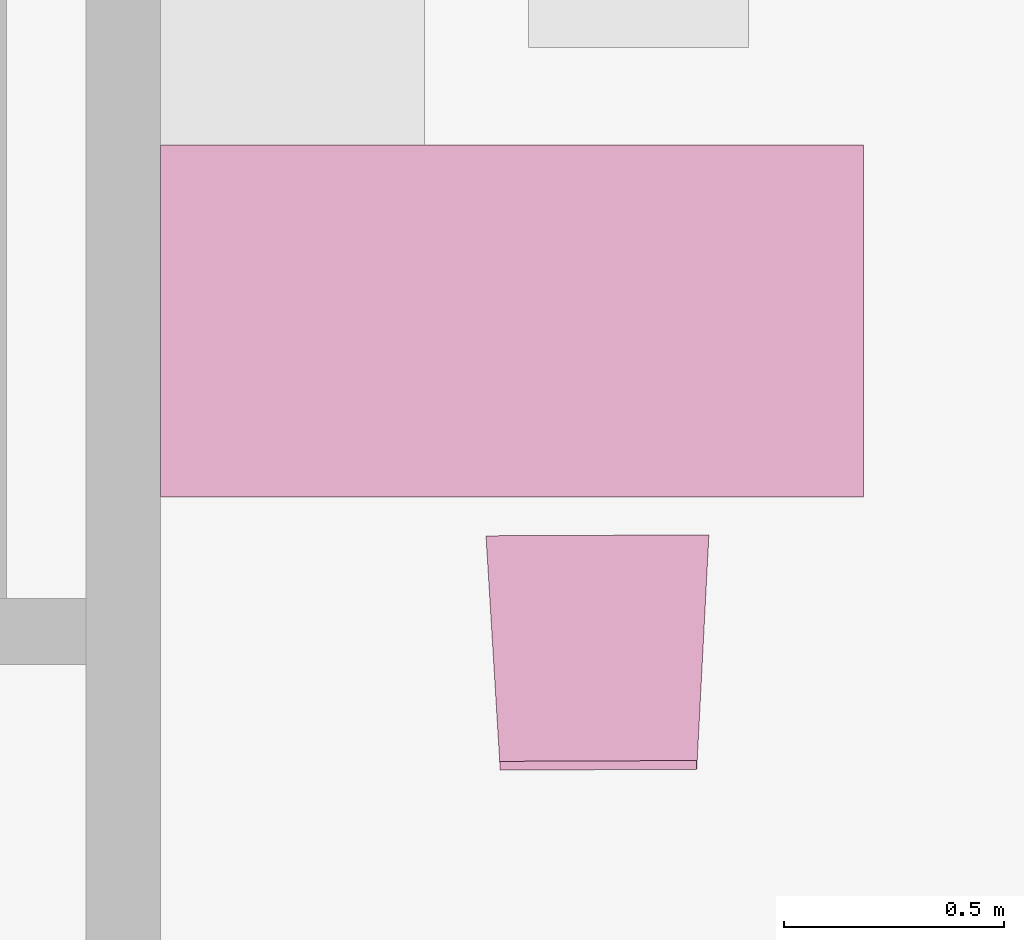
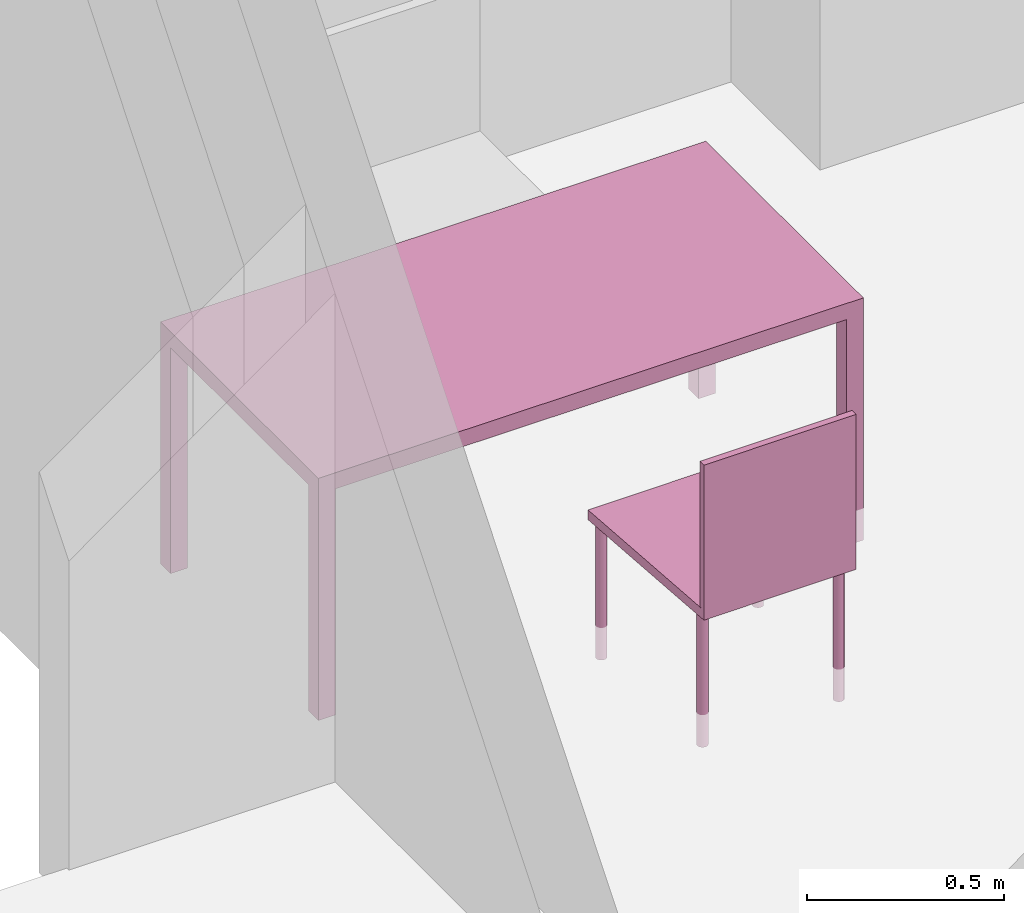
"""IFC4 building model written with IfcOpenShell, lengths in metres."""

from ifc_helpers import new_model, entity, si_unit, converted_unit, derived_unit, frame, origin, place, context, subcontext, project, spatial, faceted_brep, element, save


model = new_model("IFC4")

# Units and contexts
model_context = context("Model", 3, precision=1e-05, world=origin())
body_context = subcontext(model_context, "Body", "Model", "MODEL_VIEW")
ifc_project = project(units=[si_unit("LENGTHUNIT", "METRE"), si_unit("AREAUNIT", "SQUARE_METRE"), si_unit("VOLUMEUNIT", "CUBIC_METRE"), si_unit("MASSUNIT", "GRAM", prefix="KILO"), converted_unit("PLANEANGLEUNIT", "DEGREE", entity("IfcPlaneAngleMeasure", 0.0174532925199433), si_unit("PLANEANGLEUNIT", "RADIAN"), dimensions=[0, 0, 0, 0, 0, 0, 0]), derived_unit("THERMALTRANSMITTANCEUNIT", [(si_unit("POWERUNIT", "WATT"), 1), (si_unit("THERMODYNAMICTEMPERATUREUNIT", "KELVIN"), -1), (si_unit("LENGTHUNIT", "METRE"), -2)]), derived_unit("VOLUMETRICFLOWRATEUNIT", [(si_unit("LENGTHUNIT", "METRE"), 3), (converted_unit("TIMEUNIT", "hour", entity("IfcTimeMeasure", 3600.0), si_unit("TIMEUNIT", "SECOND"), dimensions=[0, 0, 1, 0, 0, 0, 0]), -1), (si_unit("LENGTHUNIT", "METRE"), -1)])], contexts=[model_context])

# Building, storeys
building_placement = place(None, origin())
building = spatial("IfcBuilding", under=ifc_project, at=building_placement, Name="HABITATGE PLURIFAMILIAR", CompositionType="ELEMENT")
storey_1_placement = place(building_placement, frame((0.0, 0.0, 9.26)))
storey_1 = spatial("IfcBuildingStorey", under=building, at=storey_1_placement, Name="PLANTA SEGONA", CompositionType="ELEMENT", Elevation=9.26)
storey_2_placement = place(storey_1_placement, frame((0.0, 0.0, 6.25)))
storey_2 = spatial("IfcBuildingStorey", under=storey_1, at=storey_2_placement, Name="NOU", CompositionType="PARTIAL")

# Furniture
furniture_1_placement = place(storey_2_placement, frame((421.506984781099, 26.2691508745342, -6.3499999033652)))
element("IfcFurniture", 1, at=furniture_1_placement, inside=storey_2, Name="Taula 160X80_P2", context=body_context, shape_type="Brep", body=[
    faceted_brep([(1.546945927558, 0.05, 0.0), (1.546945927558, 0.0, 0.0), (1.596945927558, 0.0, 0.0), (1.596945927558, 0.05, 0.0), (1.546945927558, 0.0, 0.7), (1.546945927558, 0.05, 0.7), (1.596945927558, 0.05, 0.7), (1.596945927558, 0.0, 0.7)], [[[0, 1, 2, 3]], [[4, 5, 6, 7]], [[1, 0, 5, 4]], [[2, 1, 4, 7]], [[3, 2, 7, 6]], [[0, 3, 6, 5]]], orient=[[False], [False], [False], [False], [False], [False]]),
    faceted_brep([(1.546945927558, 0.800069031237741, 0.0), (1.546945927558, 0.750069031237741, 0.0), (1.596945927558, 0.750069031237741, 0.0), (1.596945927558, 0.800069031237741, 0.0), (1.546945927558, 0.750069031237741, 0.7), (1.546945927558, 0.800069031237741, 0.7), (1.596945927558, 0.800069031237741, 0.7), (1.596945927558, 0.750069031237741, 0.7)], [[[0, 1, 2, 3]], [[4, 5, 6, 7]], [[1, 0, 5, 4]], [[2, 1, 4, 7]], [[3, 2, 7, 6]], [[0, 3, 6, 5]]], orient=[[False], [False], [False], [False], [False], [False]]),
    faceted_brep([(0.0, 0.800069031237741, 0.7), (0.0, 0.0, 0.7), (1.596945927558, 0.0, 0.7), (1.596945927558, 0.800069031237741, 0.7), (0.0, 0.0, 0.75), (0.0, 0.800069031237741, 0.75), (1.596945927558, 0.800069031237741, 0.75), (1.596945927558, 0.0, 0.75)], [[[0, 1, 2, 3]], [[4, 5, 6, 7]], [[1, 0, 5, 4]], [[2, 1, 4, 7]], [[3, 2, 7, 6]], [[0, 3, 6, 5]]], orient=[[False], [False], [False], [False], [False], [False]]),
    faceted_brep([(0.0, 0.05, 0.0), (0.0, 0.0, 0.0), (0.05, 0.0, 0.0), (0.05, 0.05, 0.0), (0.0, 0.0, 0.7), (0.0, 0.05, 0.7), (0.05, 0.05, 0.7), (0.05, 0.0, 0.7)], [[[0, 1, 2, 3]], [[4, 5, 6, 7]], [[1, 0, 5, 4]], [[2, 1, 4, 7]], [[3, 2, 7, 6]], [[0, 3, 6, 5]]], orient=[[False], [False], [False], [False], [False], [False]]),
    faceted_brep([(0.0, 0.800069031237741, 0.0), (0.0, 0.750069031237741, 0.0), (0.05, 0.750069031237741, 0.0), (0.05, 0.800069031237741, 0.0), (0.0, 0.750069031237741, 0.7), (0.0, 0.800069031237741, 0.7), (0.05, 0.800069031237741, 0.7), (0.05, 0.750069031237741, 0.7)], [[[0, 1, 2, 3]], [[4, 5, 6, 7]], [[1, 0, 5, 4]], [[2, 1, 4, 7]], [[3, 2, 7, 6]], [[0, 3, 6, 5]]], orient=[[False], [False], [False], [False], [False], [False]]),
])
furniture_2_placement = place(storey_2_placement, frame((422.246369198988, 25.6488703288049, -6.3514820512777)))
element("IfcFurniture", 2, at=furniture_2_placement, inside=storey_2, Name="Cadira confident_P2", context=body_context, shape_type="Brep", body=[
    faceted_brep([(0.0392724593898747, 0.507545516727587, 0.0), (0.0390342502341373, 0.510138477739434, 0.0), (0.0383493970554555, 0.512650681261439, 0.0), (0.0372387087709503, 0.515005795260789, 0.0), (0.0357359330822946, 0.517132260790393, 0.0), (0.0338867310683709, 0.518965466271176, 0.0), (0.0317472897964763, 0.520449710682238, 0.0), (0.0293826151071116, 0.521539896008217, 0.0), (0.0268645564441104, 0.522202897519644, 0.0), (0.0242696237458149, 0.52241857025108, 0.0), (0.0216766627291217, 0.522180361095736, 0.0), (0.0191644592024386, 0.52149550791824, 0.0), (0.0168093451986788, 0.520384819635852, 0.0), (0.0146828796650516, 0.518882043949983, 0.0), (0.0128496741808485, 0.517032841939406, 0.0), (0.0113654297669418, 0.514893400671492, 0.0), (0.0102752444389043, 0.512528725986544, 0.0), (0.00961224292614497, 0.510010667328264, 0.0), (0.00939657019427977, 0.507415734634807, 0.0), (0.0096347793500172, 0.504822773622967, 0.0), (0.010319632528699, 0.50231057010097, 0.0), (0.0114303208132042, 0.499955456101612, 0.0), (0.0129330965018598, 0.497828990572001, 0.0), (0.0147822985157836, 0.495995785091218, 0.0), (0.0169217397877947, 0.494511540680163, 0.0), (0.0192864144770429, 0.493421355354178, 0.0), (0.0218044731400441, 0.492758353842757, 0.0), (0.0243994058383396, 0.492542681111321, 0.0), (0.0269923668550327, 0.492780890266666, 0.0), (0.0295045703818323, 0.493465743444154, 0.0), (0.0318596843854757, 0.494576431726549, 0.0), (0.0339861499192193, 0.496079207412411, 0.0), (0.0358193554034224, 0.497928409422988, 0.0), (0.0373035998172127, 0.50006785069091, 0.0), (0.0383937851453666, 0.502432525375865, 0.0), (0.0390567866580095, 0.504950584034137, 0.0), (0.0392724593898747, 0.507545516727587, 0.448281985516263), (0.0390567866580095, 0.504950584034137, 0.448281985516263), (0.0383937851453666, 0.502432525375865, 0.448281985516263), (0.0373035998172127, 0.50006785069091, 0.448281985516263), (0.0358193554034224, 0.497928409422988, 0.448281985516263), (0.0339861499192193, 0.496079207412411, 0.448281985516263), (0.0318596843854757, 0.494576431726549, 0.448281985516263), (0.0295045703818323, 0.493465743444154, 0.448281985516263), (0.0269923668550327, 0.492780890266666, 0.448281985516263), (0.0243994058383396, 0.492542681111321, 0.448281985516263), (0.0218044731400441, 0.492758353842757, 0.448281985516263), (0.0192864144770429, 0.493421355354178, 0.448281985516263), (0.0169217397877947, 0.494511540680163, 0.448281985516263), (0.0147822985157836, 0.495995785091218, 0.448281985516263), (0.0129330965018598, 0.497828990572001, 0.448281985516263), (0.0114303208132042, 0.499955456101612, 0.448281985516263), (0.010319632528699, 0.50231057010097, 0.448281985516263), (0.0096347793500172, 0.504822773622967, 0.448281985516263), (0.00939657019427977, 0.507415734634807, 0.448281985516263), (0.00961224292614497, 0.510010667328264, 0.448281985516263), (0.0102752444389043, 0.512528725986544, 0.448281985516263), (0.0113654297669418, 0.514893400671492, 0.448281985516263), (0.0128496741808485, 0.517032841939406, 0.448281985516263), (0.0146828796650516, 0.518882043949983, 0.448281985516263), (0.0168093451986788, 0.520384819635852, 0.448281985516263), (0.0191644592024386, 0.52149550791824, 0.448281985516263), (0.0216766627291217, 0.522180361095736, 0.448281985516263), (0.0242696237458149, 0.52241857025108, 0.448281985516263), (0.0268645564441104, 0.522202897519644, 0.448281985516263), (0.0293826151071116, 0.521539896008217, 0.448281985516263), (0.0317472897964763, 0.520449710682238, 0.448281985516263), (0.0338867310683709, 0.518965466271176, 0.448281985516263), (0.0357359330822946, 0.517132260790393, 0.448281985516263), (0.0372387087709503, 0.515005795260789, 0.448281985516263), (0.0383493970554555, 0.512650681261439, 0.448281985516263), (0.0390342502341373, 0.510138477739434, 0.448281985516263)], [[[0, 1, 2, 3, 4, 5, 6, 7, 8, 9, 10, 11, 12, 13, 14, 15, 16, 17, 18, 19, 20, 21, 22, 23, 24, 25, 26, 27, 28, 29, 30, 31, 32, 33, 34, 35]], [[36, 37, 38, 39, 40, 41, 42, 43, 44, 45, 46, 47, 48, 49, 50, 51, 52, 53, 54, 55, 56, 57, 58, 59, 60, 61, 62, 63, 64, 65, 66, 67, 68, 69, 70, 71]], [[35, 37, 36, 0]], [[34, 38, 37, 35]], [[33, 39, 38, 34]], [[32, 40, 39, 33]], [[31, 41, 40, 32]], [[30, 42, 41, 31]], [[29, 43, 42, 30]], [[28, 44, 43, 29]], [[27, 45, 44, 28]], [[26, 46, 45, 27]], [[25, 47, 46, 26]], [[24, 48, 47, 25]], [[23, 49, 48, 24]], [[22, 50, 49, 23]], [[21, 51, 50, 22]], [[20, 52, 51, 21]], [[19, 53, 52, 20]], [[18, 54, 53, 19]], [[17, 55, 54, 18]], [[16, 56, 55, 17]], [[15, 57, 56, 16]], [[14, 58, 57, 15]], [[13, 59, 58, 14]], [[12, 60, 59, 13]], [[11, 61, 60, 12]], [[10, 62, 61, 11]], [[9, 63, 62, 10]], [[8, 64, 63, 9]], [[7, 65, 64, 8]], [[6, 66, 65, 7]], [[5, 67, 66, 6]], [[4, 68, 67, 5]], [[3, 69, 68, 4]], [[2, 70, 69, 3]], [[1, 71, 70, 2]], [[0, 36, 71, 1]]], orient=[[False], [False], [False], [False], [False], [False], [False], [False], [False], [False], [False], [False], [False], [False], [False], [False], [False], [False], [False], [False], [False], [False], [False], [False], [False], [False], [False], [False], [False], [False], [False], [False], [False], [False], [False], [False], [False], [False]]),
    faceted_brep([(0.0689188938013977, 0.0452628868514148, 0.0), (0.0686806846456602, 0.0478558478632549, 0.0), (0.0679958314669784, 0.0503680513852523, 0.0), (0.0668851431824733, 0.0527231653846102, 0.0), (0.0653823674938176, 0.0548496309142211, 0.0), (0.0635331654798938, 0.0566828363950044, 0.0), (0.0613937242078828, 0.058167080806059, 0.0), (0.0590290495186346, 0.0592572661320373, 0.0), (0.0565109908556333, 0.0599202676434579, 0.0), (0.0539160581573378, 0.0601359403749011, 0.0), (0.0513230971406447, 0.0598977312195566, 0.0), (0.0488108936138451, 0.059212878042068, 0.0), (0.0464557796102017, 0.0581021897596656, 0.0), (0.0443293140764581, 0.0565994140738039, 0.0), (0.0424961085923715, 0.0547502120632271, 0.0), (0.0410118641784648, 0.0526107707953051, 0.0), (0.0399216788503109, 0.050246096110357, 0.0), (0.0392586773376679, 0.0477280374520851, 0.0), (0.0390430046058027, 0.0451331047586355, 0.0), (0.0392812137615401, 0.0425401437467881, 0.0), (0.0399660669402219, 0.0400279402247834, 0.0), (0.0410767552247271, 0.0376728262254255, 0.0), (0.0425795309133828, 0.0355463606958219, 0.0), (0.0444287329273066, 0.0337131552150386, 0.0), (0.0465681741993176, 0.0322289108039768, 0.0), (0.0489328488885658, 0.0311387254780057, 0.0), (0.0514509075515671, 0.0304757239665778, 0.0), (0.0540458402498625, 0.0302600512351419, 0.0), (0.0566388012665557, 0.0304982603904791, 0.0), (0.0591510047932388, 0.0311831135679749, 0.0), (0.0615061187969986, 0.0322938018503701, 0.0), (0.0636325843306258, 0.0337965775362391, 0.0), (0.0654657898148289, 0.0356457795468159, 0.0), (0.0669500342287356, 0.0377852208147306, 0.0), (0.0680402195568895, 0.0401498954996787, 0.0), (0.0687032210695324, 0.0426679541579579, 0.0), (0.0689188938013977, 0.0452628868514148, 0.448281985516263), (0.0687032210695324, 0.0426679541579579, 0.448281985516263), (0.0680402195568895, 0.0401498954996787, 0.448281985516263), (0.0669500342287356, 0.0377852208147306, 0.448281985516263), (0.0654657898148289, 0.0356457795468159, 0.448281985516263), (0.0636325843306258, 0.0337965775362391, 0.448281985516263), (0.0615061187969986, 0.0322938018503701, 0.448281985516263), (0.0591510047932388, 0.0311831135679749, 0.448281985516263), (0.0566388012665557, 0.0304982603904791, 0.448281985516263), (0.0540458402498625, 0.0302600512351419, 0.448281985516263), (0.0514509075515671, 0.0304757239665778, 0.448281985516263), (0.0489328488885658, 0.0311387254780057, 0.448281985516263), (0.0465681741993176, 0.0322289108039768, 0.448281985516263), (0.0444287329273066, 0.0337131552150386, 0.448281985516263), (0.0425795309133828, 0.0355463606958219, 0.448281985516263), (0.0410767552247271, 0.0376728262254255, 0.448281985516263), (0.0399660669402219, 0.0400279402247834, 0.448281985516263), (0.0392812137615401, 0.0425401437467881, 0.448281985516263), (0.0390430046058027, 0.0451331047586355, 0.448281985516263), (0.0392586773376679, 0.0477280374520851, 0.448281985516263), (0.0399216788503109, 0.050246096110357, 0.448281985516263), (0.0410118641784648, 0.0526107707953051, 0.448281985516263), (0.0424961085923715, 0.0547502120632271, 0.448281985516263), (0.0443293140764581, 0.0565994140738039, 0.448281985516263), (0.0464557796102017, 0.0581021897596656, 0.448281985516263), (0.0488108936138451, 0.059212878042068, 0.448281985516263), (0.0513230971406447, 0.0598977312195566, 0.448281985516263), (0.0539160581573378, 0.0601359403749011, 0.448281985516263), (0.0565109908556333, 0.0599202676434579, 0.448281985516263), (0.0590290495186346, 0.0592572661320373, 0.448281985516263), (0.0613937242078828, 0.058167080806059, 0.448281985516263), (0.0635331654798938, 0.0566828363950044, 0.448281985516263), (0.0653823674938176, 0.0548496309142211, 0.448281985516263), (0.0668851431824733, 0.0527231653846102, 0.448281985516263), (0.0679958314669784, 0.0503680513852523, 0.448281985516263), (0.0686806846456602, 0.0478558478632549, 0.448281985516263)], [[[0, 1, 2, 3, 4, 5, 6, 7, 8, 9, 10, 11, 12, 13, 14, 15, 16, 17, 18, 19, 20, 21, 22, 23, 24, 25, 26, 27, 28, 29, 30, 31, 32, 33, 34, 35]], [[36, 37, 38, 39, 40, 41, 42, 43, 44, 45, 46, 47, 48, 49, 50, 51, 52, 53, 54, 55, 56, 57, 58, 59, 60, 61, 62, 63, 64, 65, 66, 67, 68, 69, 70, 71]], [[35, 37, 36, 0]], [[34, 38, 37, 35]], [[33, 39, 38, 34]], [[32, 40, 39, 33]], [[31, 41, 40, 32]], [[30, 42, 41, 31]], [[29, 43, 42, 30]], [[28, 44, 43, 29]], [[27, 45, 44, 28]], [[26, 46, 45, 27]], [[25, 47, 46, 26]], [[24, 48, 47, 25]], [[23, 49, 48, 24]], [[22, 50, 49, 23]], [[21, 51, 50, 22]], [[20, 52, 51, 21]], [[19, 53, 52, 20]], [[18, 54, 53, 19]], [[17, 55, 54, 18]], [[16, 56, 55, 17]], [[15, 57, 56, 16]], [[14, 58, 57, 15]], [[13, 59, 58, 14]], [[12, 60, 59, 13]], [[11, 61, 60, 12]], [[10, 62, 61, 11]], [[9, 63, 62, 10]], [[8, 64, 63, 9]], [[7, 65, 64, 8]], [[6, 66, 65, 7]], [[5, 67, 66, 6]], [[4, 68, 67, 5]], [[3, 69, 68, 4]], [[2, 70, 69, 3]], [[1, 71, 70, 2]], [[0, 36, 71, 1]]], orient=[[False], [False], [False], [False], [False], [False], [False], [False], [False], [False], [False], [False], [False], [False], [False], [False], [False], [False], [False], [False], [False], [False], [False], [False], [False], [False], [False], [False], [False], [False], [False], [False], [False], [False], [False], [False], [False], [False]]),
    faceted_brep([(0.499268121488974, 0.50954375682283, 0.0), (0.499029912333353, 0.51213671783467, 0.0), (0.498345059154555, 0.514648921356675, 0.0), (0.49723437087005, 0.517004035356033, 0.0), (0.495731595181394, 0.519130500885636, 0.0), (0.493882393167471, 0.52096370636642, 0.0), (0.491742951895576, 0.522447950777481, 0.0), (0.489378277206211, 0.52353813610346, 0.0), (0.48686021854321, 0.524201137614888, 0.0), (0.484265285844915, 0.524416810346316, 0.0), (0.481672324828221, 0.524178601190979, 0.0), (0.479160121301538, 0.523493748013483, 0.0), (0.476805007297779, 0.522383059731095, 0.0), (0.474678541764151, 0.520880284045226, 0.0), (0.472845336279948, 0.519031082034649, 0.0), (0.471361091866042, 0.516891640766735, 0.0), (0.470270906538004, 0.514526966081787, 0.0), (0.469607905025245, 0.5120089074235, 0.0), (0.46939223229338, 0.509413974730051, 0.0), (0.469630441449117, 0.506821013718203, 0.0), (0.470315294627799, 0.504308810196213, 0.0), (0.471425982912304, 0.501953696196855, 0.0), (0.47292875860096, 0.499827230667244, 0.0), (0.474777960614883, 0.497994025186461, 0.0), (0.476917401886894, 0.496509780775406, 0.0), (0.479282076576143, 0.495419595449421, 0.0), (0.481800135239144, 0.494756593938, 0.0), (0.484395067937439, 0.494540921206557, 0.0), (0.486988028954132, 0.494779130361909, 0.0), (0.489500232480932, 0.495463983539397, 0.0), (0.491855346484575, 0.496574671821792, 0.0), (0.493981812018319, 0.498077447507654, 0.0), (0.495815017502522, 0.499926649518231, 0.0), (0.497299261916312, 0.502066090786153, 0.0), (0.498389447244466, 0.504430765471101, 0.0), (0.499052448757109, 0.506948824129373, 0.0), (0.499268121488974, 0.50954375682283, 0.448281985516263), (0.499052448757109, 0.506948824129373, 0.448281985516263), (0.498389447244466, 0.504430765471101, 0.448281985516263), (0.497299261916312, 0.502066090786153, 0.448281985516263), (0.495815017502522, 0.499926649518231, 0.448281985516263), (0.493981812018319, 0.498077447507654, 0.448281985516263), (0.491855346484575, 0.496574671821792, 0.448281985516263), (0.489500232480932, 0.495463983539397, 0.448281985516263), (0.486988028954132, 0.494779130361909, 0.448281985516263), (0.484395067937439, 0.494540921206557, 0.448281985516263), (0.481800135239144, 0.494756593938, 0.448281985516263), (0.479282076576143, 0.495419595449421, 0.448281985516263), (0.476917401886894, 0.496509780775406, 0.448281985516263), (0.474777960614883, 0.497994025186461, 0.448281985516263), (0.47292875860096, 0.499827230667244, 0.448281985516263), (0.471425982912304, 0.501953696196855, 0.448281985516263), (0.470315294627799, 0.504308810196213, 0.448281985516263), (0.469630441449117, 0.506821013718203, 0.448281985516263), (0.46939223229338, 0.509413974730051, 0.448281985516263), (0.469607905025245, 0.5120089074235, 0.448281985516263), (0.470270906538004, 0.514526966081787, 0.448281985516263), (0.471361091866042, 0.516891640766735, 0.448281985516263), (0.472845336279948, 0.519031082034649, 0.448281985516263), (0.474678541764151, 0.520880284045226, 0.448281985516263), (0.476805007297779, 0.522383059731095, 0.448281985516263), (0.479160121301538, 0.523493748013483, 0.448281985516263), (0.481672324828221, 0.524178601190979, 0.448281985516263), (0.484265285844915, 0.524416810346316, 0.448281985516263), (0.48686021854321, 0.524201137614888, 0.448281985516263), (0.489378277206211, 0.52353813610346, 0.448281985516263), (0.491742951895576, 0.522447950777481, 0.448281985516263), (0.493882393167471, 0.52096370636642, 0.448281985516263), (0.495731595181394, 0.519130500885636, 0.448281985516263), (0.49723437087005, 0.517004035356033, 0.448281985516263), (0.498345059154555, 0.514648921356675, 0.448281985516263), (0.499029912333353, 0.51213671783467, 0.448281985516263)], [[[0, 1, 2, 3, 4, 5, 6, 7, 8, 9, 10, 11, 12, 13, 14, 15, 16, 17, 18, 19, 20, 21, 22, 23, 24, 25, 26, 27, 28, 29, 30, 31, 32, 33, 34, 35]], [[36, 37, 38, 39, 40, 41, 42, 43, 44, 45, 46, 47, 48, 49, 50, 51, 52, 53, 54, 55, 56, 57, 58, 59, 60, 61, 62, 63, 64, 65, 66, 67, 68, 69, 70, 71]], [[35, 37, 36, 0]], [[34, 38, 37, 35]], [[33, 39, 38, 34]], [[32, 40, 39, 33]], [[31, 41, 40, 32]], [[30, 42, 41, 31]], [[29, 43, 42, 30]], [[28, 44, 43, 29]], [[27, 45, 44, 28]], [[26, 46, 45, 27]], [[25, 47, 46, 26]], [[24, 48, 47, 25]], [[23, 49, 48, 24]], [[22, 50, 49, 23]], [[21, 51, 50, 22]], [[20, 52, 51, 21]], [[19, 53, 52, 20]], [[18, 54, 53, 19]], [[17, 55, 54, 18]], [[16, 56, 55, 17]], [[15, 57, 56, 16]], [[14, 58, 57, 15]], [[13, 59, 58, 14]], [[12, 60, 59, 13]], [[11, 61, 60, 12]], [[10, 62, 61, 11]], [[9, 63, 62, 10]], [[8, 64, 63, 9]], [[7, 65, 64, 8]], [[6, 66, 65, 7]], [[5, 67, 66, 6]], [[4, 68, 67, 5]], [[3, 69, 68, 4]], [[2, 70, 69, 3]], [[1, 71, 70, 2]], [[0, 36, 71, 1]]], orient=[[False], [False], [False], [False], [False], [False], [False], [False], [False], [False], [False], [False], [False], [False], [False], [False], [False], [False], [False], [False], [False], [False], [False], [False], [False], [False], [False], [False], [False], [False], [False], [False], [False], [False], [False], [False], [False], [False]]),
    faceted_brep([(0.468915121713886, 0.047000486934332, 0.0), (0.468676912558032, 0.0495934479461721, 0.0), (0.46799205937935, 0.0521056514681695, 0.0), (0.466881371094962, 0.0544607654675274, 0.0), (0.465378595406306, 0.0565872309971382, 0.0), (0.463529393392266, 0.0584204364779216, 0.0), (0.461389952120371, 0.0599046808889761, 0.0), (0.459025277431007, 0.0609948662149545, 0.0), (0.456507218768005, 0.0616578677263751, 0.0), (0.45391228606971, 0.0618735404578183, 0.0), (0.451319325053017, 0.0616353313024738, 0.0), (0.448807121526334, 0.0609504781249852, 0.0), (0.446452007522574, 0.0598397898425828, 0.0), (0.44432554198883, 0.0583370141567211, 0.0), (0.442492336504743, 0.0564878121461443, 0.0), (0.441008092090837, 0.0543483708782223, 0.0), (0.439917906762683, 0.0519836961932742, 0.0), (0.43925490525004, 0.0494656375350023, 0.0), (0.439039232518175, 0.0468707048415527, 0.0), (0.439277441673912, 0.0442777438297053, 0.0), (0.439962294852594, 0.0417655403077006, 0.0), (0.441072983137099, 0.0394104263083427, 0.0), (0.442575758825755, 0.0372839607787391, 0.0), (0.444424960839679, 0.0354507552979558, 0.0), (0.44656440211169, 0.033966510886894, 0.0), (0.448929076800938, 0.0328763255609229, 0.0), (0.451447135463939, 0.032213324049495, 0.0), (0.454042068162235, 0.0319976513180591, 0.0), (0.456635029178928, 0.0322358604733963, 0.0), (0.459147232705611, 0.0329207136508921, 0.0), (0.461502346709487, 0.0340314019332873, 0.0), (0.463628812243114, 0.0355341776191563, 0.0), (0.465462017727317, 0.0373833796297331, 0.0), (0.466946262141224, 0.0395228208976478, 0.0), (0.468036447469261, 0.0418874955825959, 0.0), (0.468699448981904, 0.0444055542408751, 0.0), (0.468915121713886, 0.047000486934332, 0.448281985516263), (0.468699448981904, 0.0444055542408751, 0.448281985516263), (0.468036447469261, 0.0418874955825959, 0.448281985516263), (0.466946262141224, 0.0395228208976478, 0.448281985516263), (0.465462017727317, 0.0373833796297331, 0.448281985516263), (0.463628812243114, 0.0355341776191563, 0.448281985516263), (0.461502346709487, 0.0340314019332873, 0.448281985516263), (0.459147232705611, 0.0329207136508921, 0.448281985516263), (0.456635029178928, 0.0322358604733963, 0.448281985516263), (0.454042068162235, 0.0319976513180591, 0.448281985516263), (0.451447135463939, 0.032213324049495, 0.448281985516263), (0.448929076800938, 0.0328763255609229, 0.448281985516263), (0.44656440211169, 0.033966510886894, 0.448281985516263), (0.444424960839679, 0.0354507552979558, 0.448281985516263), (0.442575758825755, 0.0372839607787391, 0.448281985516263), (0.441072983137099, 0.0394104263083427, 0.448281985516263), (0.439962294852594, 0.0417655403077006, 0.448281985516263), (0.439277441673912, 0.0442777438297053, 0.448281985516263), (0.439039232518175, 0.0468707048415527, 0.448281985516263), (0.43925490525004, 0.0494656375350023, 0.448281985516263), (0.439917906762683, 0.0519836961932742, 0.448281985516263), (0.441008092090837, 0.0543483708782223, 0.448281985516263), (0.442492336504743, 0.0564878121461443, 0.448281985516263), (0.44432554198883, 0.0583370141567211, 0.448281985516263), (0.446452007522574, 0.0598397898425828, 0.448281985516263), (0.448807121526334, 0.0609504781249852, 0.448281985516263), (0.451319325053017, 0.0616353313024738, 0.448281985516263), (0.45391228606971, 0.0618735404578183, 0.448281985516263), (0.456507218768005, 0.0616578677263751, 0.448281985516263), (0.459025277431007, 0.0609948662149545, 0.448281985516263), (0.461389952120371, 0.0599046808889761, 0.448281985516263), (0.463529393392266, 0.0584204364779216, 0.448281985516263), (0.465378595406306, 0.0565872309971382, 0.448281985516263), (0.466881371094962, 0.0544607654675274, 0.448281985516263), (0.46799205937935, 0.0521056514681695, 0.448281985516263), (0.468676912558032, 0.0495934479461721, 0.448281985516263)], [[[0, 1, 2, 3, 4, 5, 6, 7, 8, 9, 10, 11, 12, 13, 14, 15, 16, 17, 18, 19, 20, 21, 22, 23, 24, 25, 26, 27, 28, 29, 30, 31, 32, 33, 34, 35]], [[36, 37, 38, 39, 40, 41, 42, 43, 44, 45, 46, 47, 48, 49, 50, 51, 52, 53, 54, 55, 56, 57, 58, 59, 60, 61, 62, 63, 64, 65, 66, 67, 68, 69, 70, 71]], [[35, 37, 36, 0]], [[34, 38, 37, 35]], [[33, 39, 38, 34]], [[32, 40, 39, 33]], [[31, 41, 40, 32]], [[30, 42, 41, 31]], [[29, 43, 42, 30]], [[28, 44, 43, 29]], [[27, 45, 44, 28]], [[26, 46, 45, 27]], [[25, 47, 46, 26]], [[24, 48, 47, 25]], [[23, 49, 48, 24]], [[22, 50, 49, 23]], [[21, 51, 50, 22]], [[20, 52, 51, 21]], [[19, 53, 52, 20]], [[18, 54, 53, 19]], [[17, 55, 54, 18]], [[16, 56, 55, 17]], [[15, 57, 56, 16]], [[14, 58, 57, 15]], [[13, 59, 58, 14]], [[12, 60, 59, 13]], [[11, 61, 60, 12]], [[10, 62, 61, 11]], [[9, 63, 62, 10]], [[8, 64, 63, 9]], [[7, 65, 64, 8]], [[6, 66, 65, 7]], [[5, 67, 66, 6]], [[4, 68, 67, 5]], [[3, 69, 68, 4]], [[2, 70, 69, 3]], [[1, 71, 70, 2]], [[0, 36, 71, 1]]], orient=[[False], [False], [False], [False], [False], [False], [False], [False], [False], [False], [False], [False], [False], [False], [False], [False], [False], [False], [False], [False], [False], [False], [False], [False], [False], [False], [False], [False], [False], [False], [False], [False], [False], [False], [False], [False], [False], [False]]),
    faceted_brep([(0.478823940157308, 0.0019396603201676, 0.418281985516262), (0.5065100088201, 0.534672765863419, 0.418281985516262), (0.0, 0.532472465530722, 0.418281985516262), (0.0323133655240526, 0.0, 0.418281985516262), (0.5065100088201, 0.534672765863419, 0.448281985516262), (0.478823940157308, 0.0019396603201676, 0.448281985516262), (0.0323133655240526, 0.0, 0.448281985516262), (0.0, 0.532472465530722, 0.448281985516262)], [[[0, 1, 2, 3]], [[4, 5, 6, 7]], [[1, 0, 5, 4]], [[2, 1, 4, 7]], [[3, 2, 7, 6]], [[0, 3, 6, 5]]], orient=[[False], [False], [False], [False], [False], [False]]),
    faceted_brep([(0.478737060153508, 0.0219394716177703, 0.448281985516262), (0.0322264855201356, 0.0199998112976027, 0.448281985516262), (0.0323133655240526, 0.0, 0.448281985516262), (0.478823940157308, 0.0019396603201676, 0.448281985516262), (0.0322264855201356, 0.0199998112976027, 0.898281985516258), (0.478737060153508, 0.0219394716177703, 0.898281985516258), (0.478823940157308, 0.0019396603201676, 0.898281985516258), (0.0323133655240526, 0.0, 0.898281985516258)], [[[0, 1, 2, 3]], [[4, 5, 6, 7]], [[1, 0, 5, 4]], [[2, 1, 4, 7]], [[3, 2, 7, 6]], [[0, 3, 6, 5]]], orient=[[False], [False], [False], [False], [False], [False]]),
])

save(model, "model.ifc")
